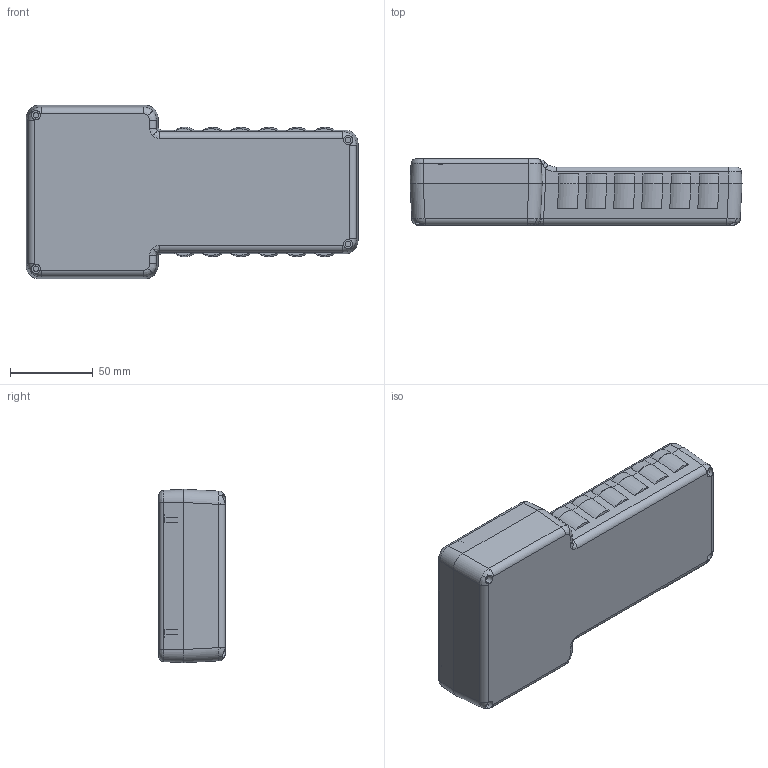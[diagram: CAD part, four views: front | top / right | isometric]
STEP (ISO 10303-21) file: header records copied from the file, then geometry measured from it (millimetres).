
FILE_DESCRIPTION (( 'STEP AP203' ), '1' );
FILE_NAME ('HH-095.STEP', '2017-04-21T06:12:02', ( '' ), ( '' ), 'SwSTEP 2.0', 'SolidWorks 2015', '' );
FILE_SCHEMA (( 'CONFIG_CONTROL_DESIGN' ));
Length unit declared in the file: millimetre
Products named in the file (3): HH-095-P-3-11175_HH-095-K; HH-095; HH-095-P-2-11174_Pil yuvas鉱
Assembly tree (2 placements, depth 2):
  HH-095
    HH-095-P-2-11174_Pil yuvas鉱
    HH-095-P-3-11175_HH-095-K
Bounding box: 201 x 40.1 x 105 mm (x, y, z)
Volume: 164627 mm3; surface area: 118349.2 mm2
Topology: 2 solids, 2 shells, 692 faces, 1673 edges, 1067 vertices
Faces by surface type: plane 277, cylinder 241, bspline 134, cone 38, torus 2
Entity records: 24833 total; most frequent: CARTESIAN_POINT 8932, ORIENTED_EDGE 3346, DIRECTION 3067, EDGE_CURVE 1673, AXIS2_PLACEMENT_3D 1107, VERTEX_POINT 1067, VECTOR 853, LINE 853
